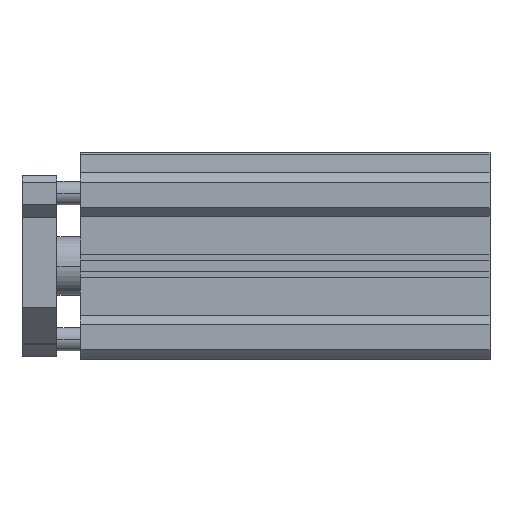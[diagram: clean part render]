
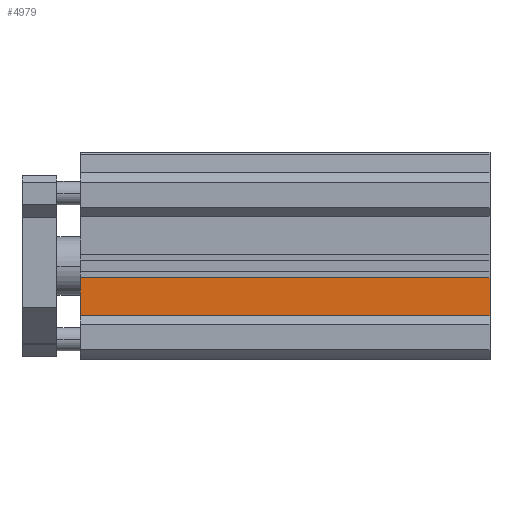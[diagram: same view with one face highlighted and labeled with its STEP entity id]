
A CAD part, top view. The second image highlights one B-rep face of the part: STEP entity #4979.
In plain terms, the highlighted planar face has unit normal (0, 0, 1).
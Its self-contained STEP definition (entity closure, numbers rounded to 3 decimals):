
#486 = CARTESIAN_POINT ( 'NONE',  ( 140.5, -17., 29. ) ) ;
#548 = CARTESIAN_POINT ( 'NONE',  ( 140.5, -4., 29. ) ) ;
#574 = DIRECTION ( 'NONE',  ( -1., 0., 0. ) ) ;
#730 = VERTEX_POINT ( 'NONE', #928 ) ;
#766 = VERTEX_POINT ( 'NONE', #486 ) ;
#767 = LINE ( 'NONE', #3828, #2574 ) ;
#892 = AXIS2_PLACEMENT_3D ( 'NONE', #3399, #4626, #4960 ) ;
#928 = CARTESIAN_POINT ( 'NONE',  ( 0., -17., 29. ) ) ;
#1387 = EDGE_CURVE ( 'NONE', #2048, #730, #767, .T. ) ;
#1842 = EDGE_CURVE ( 'NONE', #766, #730, #4560, .T. ) ;
#1866 = PLANE ( 'NONE',  #892 ) ;
#2048 = VERTEX_POINT ( 'NONE', #4097 ) ;
#2127 = EDGE_CURVE ( 'NONE', #3622, #766, #4020, .T. ) ;
#2314 = ORIENTED_EDGE ( 'NONE', *, *, #1387, .T. ) ;
#2417 = VECTOR ( 'NONE', #574, 1000. ) ;
#2441 = ORIENTED_EDGE ( 'NONE', *, *, #4221, .T. ) ;
#2574 = VECTOR ( 'NONE', #3016, 1000. ) ;
#2629 = CARTESIAN_POINT ( 'NONE',  ( 140.5, -17., 29. ) ) ;
#2631 = ORIENTED_EDGE ( 'NONE', *, *, #2127, .F. ) ;
#3016 = DIRECTION ( 'NONE',  ( 0., -1., 0. ) ) ;
#3105 = DIRECTION ( 'NONE',  ( -1., 0., 0. ) ) ;
#3245 = EDGE_LOOP ( 'NONE', ( #2314, #3582, #2631, #2441 ) ) ;
#3332 = DIRECTION ( 'NONE',  ( 0., -1., 0. ) ) ;
#3399 = CARTESIAN_POINT ( 'NONE',  ( 140.5, -4., 29. ) ) ;
#3582 = ORIENTED_EDGE ( 'NONE', *, *, #1842, .F. ) ;
#3622 = VERTEX_POINT ( 'NONE', #5031 ) ;
#3776 = FACE_OUTER_BOUND ( 'NONE', #3245, .T. ) ;
#3828 = CARTESIAN_POINT ( 'NONE',  ( 0., -4., 29. ) ) ;
#3927 = VECTOR ( 'NONE', #3332, 1000. ) ;
#4020 = LINE ( 'NONE', #548, #3927 ) ;
#4050 = CARTESIAN_POINT ( 'NONE',  ( 140.5, -4., 29. ) ) ;
#4072 = LINE ( 'NONE', #4050, #2417 ) ;
#4097 = CARTESIAN_POINT ( 'NONE',  ( 0., -4., 29. ) ) ;
#4221 = EDGE_CURVE ( 'NONE', #3622, #2048, #4072, .T. ) ;
#4298 = VECTOR ( 'NONE', #3105, 1000. ) ;
#4560 = LINE ( 'NONE', #2629, #4298 ) ;
#4626 = DIRECTION ( 'NONE',  ( 0., 0., -1. ) ) ;
#4960 = DIRECTION ( 'NONE',  ( 0., -1., 0. ) ) ;
#4979 = ADVANCED_FACE ( 'NONE', ( #3776 ), #1866, .F. ) ;
#5031 = CARTESIAN_POINT ( 'NONE',  ( 140.5, -4., 29. ) ) ;
